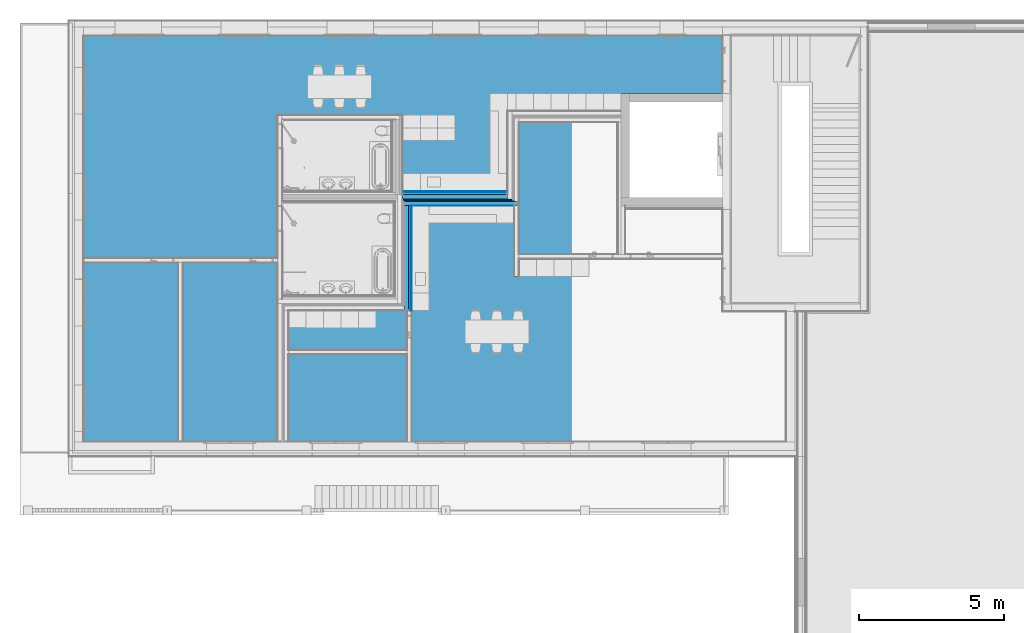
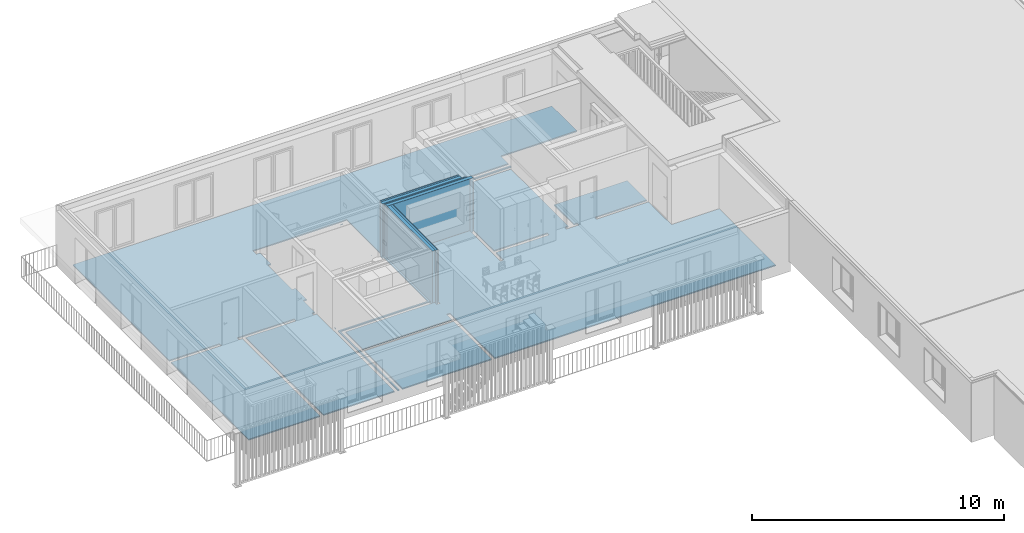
# One storey, part 12 of 34: 15 building element parts, 6 elements without a shape of their own.
"""IFC4 building model written with IfcOpenShell, lengths in millimetres."""

from ifc_helpers import new_model, entity, si_unit, converted_unit, derived_unit, direction, frame, origin_with_axes, place, context, subcontext, project, spatial, polygons, material, type_object, element, aggregate, save


model = new_model("IFC4")

# Units and contexts
model_context = context("Model", 3, precision=0.01, world=origin_with_axes(), true_north=direction((0.0, 1.0)))
body_context = subcontext(model_context, "Body", "Model", "MODEL_VIEW")
ifc_project = project(units=[si_unit("LENGTHUNIT", "METRE", prefix="MILLI"), si_unit("AREAUNIT", "SQUARE_METRE"), si_unit("VOLUMEUNIT", "CUBIC_METRE"), converted_unit("PLANEANGLEUNIT", "DEGREE", entity("IfcPlaneAngleMeasure", 0.0174532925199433), si_unit("PLANEANGLEUNIT", "RADIAN"), dimensions=[0, 0, 0, 0, 0, 0, 0]), converted_unit("TIMEUNIT", "Year", entity("IfcTimeMeasure", 31557600.0), si_unit("TIMEUNIT", "SECOND"), dimensions=[0, 0, 1, 0, 0, 0, 0]), si_unit("MASSUNIT", "GRAM", prefix="KILO"), si_unit("THERMODYNAMICTEMPERATUREUNIT", "DEGREE_CELSIUS"), si_unit("LUMINOUSINTENSITYUNIT", "LUMEN"), si_unit("ENERGYUNIT", "JOULE", prefix="MEGA"), derived_unit("THERMALCONDUCTANCEUNIT", [(si_unit("POWERUNIT", "WATT"), 1), (si_unit("LENGTHUNIT", "METRE"), -1), (si_unit("THERMODYNAMICTEMPERATUREUNIT", "KELVIN"), -1)]), derived_unit("SPECIFICHEATCAPACITYUNIT", [(si_unit("ENERGYUNIT", "JOULE"), 1), (si_unit("MASSUNIT", "GRAM", prefix="KILO"), -1), (si_unit("THERMODYNAMICTEMPERATUREUNIT", "KELVIN"), -1)]), derived_unit("MASSDENSITYUNIT", [(si_unit("MASSUNIT", "GRAM", prefix="KILO"), 1), (si_unit("VOLUMEUNIT", "CUBIC_METRE"), -1)])], contexts=[model_context])

# Site, building, storey
site_placement = place(None, origin_with_axes())
site = spatial("IfcSite", under=ifc_project, at=site_placement, Name="Gelände", CompositionType="ELEMENT")
building_placement = place(site_placement, origin_with_axes())
building = spatial("IfcBuilding", under=site, at=building_placement, Name="Gebäude", CompositionType="ELEMENT")
storey_placement = place(building_placement, frame((0.0, 0.0, 2900.0), z_axis=(0.0, 0.0, 1.0), x_axis=(1.0, 0.0, 0.0)))
storey = spatial("IfcBuildingStorey", under=building, at=storey_placement, Name="1.OG", CompositionType="ELEMENT", Elevation=2900.0)

# Wall, building element parts
wall_type_1 = type_object("IfcWallType", Name="Trennwand Typ 02 - kein Putz 190", PredefinedType="NOTDEFINED")
wall_1_placement = place(storey_placement, frame((8038.997444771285, 31962.59728131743, 0.0), z_axis=(0.0, 0.0, 1.0), x_axis=(-1.0, 0.0, 0.0)))
wall_1 = element("IfcWall", 1, at=wall_1_placement, inside=storey, type_object=wall_type_1, Name="Wand-014", PredefinedType="NOTDEFINED")
ifc_material_1 = material(Name="Dämmung Innen")
building_element_part_1_placement = place(wall_1_placement, origin_with_axes())
building_element_part_1 = element("IfcBuildingElementPart", 2, at=building_element_part_1_placement, material=ifc_material_1, Name="Dämmung Innen", PredefinedType="NOTDEFINED", context=body_context, shape_type="Tessellation", body=[
    polygons([(-150.0000000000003, 190.0000000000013, 149.9999999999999), (-150.0000000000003, 149.9999999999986, 149.9999999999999), (-150.0000000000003, 149.9999999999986, 2649.999948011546), (-150.0000000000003, 190.0000000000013, 2649.999948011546), (3603.001626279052, 149.9999999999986, 149.9999999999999), (3603.001626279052, 190.0000000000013, 149.9999999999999), (3603.001626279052, 149.9999999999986, 2649.999948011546), (3603.001626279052, 190.0000000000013, 2649.999948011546)], [[[1, 2, 3, 4]], [[5, 2, 1, 6]], [[2, 5, 7, 3]], [[3, 7, 8, 4]], [[6, 1, 4, 8]], [[5, 6, 8, 7]]], closed=True),
])
ifc_material_2 = material(Name="MW, Backstein")
building_element_part_2_placement = place(wall_1_placement, origin_with_axes())
building_element_part_2 = element("IfcBuildingElementPart", 3, at=building_element_part_2_placement, material=ifc_material_2, Name="MW, Backstein", PredefinedType="NOTDEFINED", context=body_context, shape_type="Tessellation", body=[
    polygons([(3643.001626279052, 149.9999999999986, 0.0), (3643.001626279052, 0.0, 0.0), (0.0, 0.0, 0.0), (0.0, 149.9999999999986, 0.0), (3643.001626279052, 149.9999999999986, 2649.999948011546), (3643.001626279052, 0.0, 2649.999948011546), (0.0, 0.0, 2649.999948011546), (0.0, 149.9999999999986, 2649.999948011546)], [[[1, 2, 3, 4]], [[2, 1, 5, 6]], [[2, 6, 7, 3]], [[8, 4, 3, 7]], [[5, 1, 4, 8]], [[6, 5, 8, 7]]], closed=True),
])
aggregate(wall_1, [building_element_part_1, building_element_part_2])

# Covering, building element part
covering_type = type_object("IfcCoveringType", Name="Bodenaufbau Typ 01 150", PredefinedType="NOTDEFINED")
covering_placement = place(storey_placement, frame((-6561.004181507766, 37437.5972813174, 0.0), z_axis=(0.0, 0.0, 1.0), x_axis=(1.0, 0.0, 0.0)))
covering = element("IfcCovering", 4, at=covering_placement, inside=storey, type_object=covering_type, Name="Decke-007", PredefinedType="NOTDEFINED")
ifc_material_3 = material(Name="Unterlagsboden")
building_element_part_3_placement = place(covering_placement, origin_with_axes())
building_element_part_3 = element("IfcBuildingElementPart", 5, at=building_element_part_3_placement, material=ifc_material_3, Name="Unterlagsboden", PredefinedType="NOTDEFINED", context=body_context, shape_type="Tessellation", body=[
    polygons([(10621.77773059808, -5369.999999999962, 134.9999999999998), (10621.77773059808, -5359.999999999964, 134.9999999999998), (10611.77773059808, -5359.999999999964, 134.9999999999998), (10611.77773059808, -5369.999999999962, 134.9999999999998), (10621.77773059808, -5359.999999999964, 79.99999999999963), (10621.77773059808, -5369.999999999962, 79.99999999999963), (10611.77773059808, -5359.999999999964, 79.99999999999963), (10611.77773059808, -5369.999999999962, 79.99999999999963)], [[[1, 2, 3, 4]], [[5, 2, 1, 6]], [[2, 5, 7, 3]], [[3, 7, 8, 4]], [[6, 1, 4, 8]], [[5, 6, 8, 7]]], closed=True),
    polygons([(3419.999999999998, -7812.513021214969, 134.9999999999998), (3419.999999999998, -13980.00054054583, 134.9999999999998), (6683.999999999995, -13980.00054054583, 134.9999999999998), (6683.999999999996, -9223.223895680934, 134.9999999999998), (6683.999999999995, -9073.223895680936, 134.9999999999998), (6683.999999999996, -7812.513021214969, 134.9999999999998), (6533.999999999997, -7812.513021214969, 134.9999999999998), (6533.999999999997, -7662.513021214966, 134.9999999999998), (6683.999999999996, -7662.513021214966, 134.9999999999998), (6683.999999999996, -6734.99999999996, 134.9999999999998), (6843.999999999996, -6734.99999999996, 134.9999999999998), (6843.999999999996, -5844.99999999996, 134.9999999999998), (6683.999999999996, -5844.99999999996, 134.9999999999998), (6683.999999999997, -3898.533577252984, 134.9999999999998), (6843.999999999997, -3898.533577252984, 134.9999999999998), (6843.999999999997, -3008.533577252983, 134.9999999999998), (6683.999999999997, -3008.533577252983, 134.9999999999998), (6683.999999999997, -2743.533577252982, 134.9999999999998), (6833.999999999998, -2743.533577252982, 134.9999999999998), (10876.77773059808, -2743.533577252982, 134.9999999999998), (10876.77773059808, -2733.533577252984, 134.9999999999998), (10981.77773059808, -2733.533577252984, 134.9999999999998), (10981.77773059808, -5369.999999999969, 134.9999999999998), (14590.00162627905, -5369.999999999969, 134.9999999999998), (14590.00162627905, -5474.999999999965, 134.9999999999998), (14600.00162627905, -5474.999999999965, 134.9999999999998), (14600.00162627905, -2599.999999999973, 134.9999999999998), (14750.00162627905, -2599.999999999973, 134.9999999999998), (18490.00162627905, -2599.999999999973, 134.9999999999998), (18490.00162627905, -1989.999999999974, 134.9999999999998), (21980.00162627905, -1989.999999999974, 134.9999999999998), (21980.00162627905, 0.0, 134.9999999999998), (0.0, 0.0, 134.9999999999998), (0.0, -7662.51302121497, 134.9999999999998), (2309.999999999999, -7662.51302121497, 134.9999999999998), (2309.999999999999, -7812.513021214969, 134.9999999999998), (0.0, -7812.513021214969, 134.9999999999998), (0.0, -13980.00054054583, 134.9999999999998), (3269.999999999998, -13980.00054054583, 134.9999999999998), (3269.999999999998, -7812.513021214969, 134.9999999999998), (3110.0, -7812.513021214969, 134.9999999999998), (3110.0, -7662.51302121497, 134.9999999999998), (5733.999999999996, -7662.513021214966, 134.9999999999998), (5733.999999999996, -7812.513021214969, 134.9999999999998), (3419.999999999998, -7812.513021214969, 79.99999999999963), (3419.999999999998, -13980.00054054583, 80.00000000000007), (6683.999999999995, -13980.00054054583, 80.00000000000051), (6683.999999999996, -9223.223895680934, 79.99999999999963), (6683.999999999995, -9073.223895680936, 79.99999999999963), (6683.999999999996, -7812.513021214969, 79.99999999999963), (6533.999999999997, -7812.513021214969, 79.99999999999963), (6533.999999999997, -7662.513021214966, 79.99999999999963), (6683.999999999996, -7662.513021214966, 79.99999999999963), (6683.999999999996, -6734.99999999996, 79.99999999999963), (6843.999999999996, -6734.99999999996, 79.99999999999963), (6843.999999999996, -5844.99999999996, 79.99999999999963), (6683.999999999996, -5844.99999999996, 79.99999999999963), (6683.999999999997, -3898.533577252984, 79.99999999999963), (6843.999999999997, -3898.533577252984, 79.99999999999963), (6843.999999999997, -3008.533577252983, 79.99999999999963), (6683.999999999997, -3008.533577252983, 79.99999999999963), (6683.999999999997, -2743.533577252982, 79.99999999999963), (6833.999999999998, -2743.533577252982, 79.99999999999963), (10876.77773059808, -2743.533577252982, 79.99999999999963), (10876.77773059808, -2733.533577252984, 79.99999999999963), (10981.77773059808, -2733.533577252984, 79.99999999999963), (10981.77773059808, -5369.999999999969, 79.99999999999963), (14590.00162627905, -5369.999999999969, 79.99999999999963), (14590.00162627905, -5474.999999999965, 79.99999999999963), (14600.00162627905, -5474.999999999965, 79.99999999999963), (14600.00162627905, -2599.999999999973, 79.99999999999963), (14750.00162627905, -2599.999999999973, 79.99999999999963), (18490.00162627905, -2599.999999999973, 79.99999999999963), (18490.00162627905, -1989.999999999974, 79.99999999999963), (21980.00162627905, -1989.999999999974, 79.99999999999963), (21980.00162627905, 0.0, 79.99999999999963), (0.0, 0.0, 79.99999999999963), (0.0, -7662.51302121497, 79.99999999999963), (2309.999999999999, -7662.51302121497, 79.99999999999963), (2309.999999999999, -7812.513021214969, 79.99999999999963), (0.0, -7812.513021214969, 79.99999999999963), (0.0, -13980.00054054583, 79.99999999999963), (3269.999999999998, -13980.00054054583, 80.00000000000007), (3269.999999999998, -7812.513021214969, 79.99999999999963), (3110.0, -7812.513021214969, 79.99999999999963), (3110.0, -7662.51302121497, 79.99999999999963), (5733.999999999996, -7662.513021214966, 79.99999999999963), (5733.999999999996, -7812.513021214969, 79.99999999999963)], [[[1, 2, 3, 4, 5, 6, 7, 8, 9, 10, 11, 12, 13, 14, 15, 16, 17, 18, 19, 20, 21, 22, 23, 24, 25, 26, 27, 28, 29, 30, 31, 32, 33, 34, 35, 36, 37, 38, 39, 40, 41, 42, 43, 44]], [[2, 1, 45, 46]], [[2, 46, 47, 3]], [[48, 4, 3, 47]], [[4, 48, 49, 5]], [[5, 49, 50, 6]], [[6, 50, 51, 7]], [[8, 7, 51, 52]], [[53, 9, 8, 52]], [[10, 9, 53, 54]], [[11, 10, 54, 55]], [[11, 55, 56, 12]], [[57, 13, 12, 56]], [[14, 13, 57, 58]], [[15, 14, 58, 59]], [[15, 59, 60, 16]], [[61, 17, 16, 60]], [[18, 17, 61, 62]], [[63, 19, 18, 62]], [[64, 20, 19, 63]], [[21, 20, 64, 65]], [[66, 22, 21, 65]], [[23, 22, 66, 67]], [[23, 67, 68, 24]], [[24, 68, 69, 25]], [[25, 69, 70, 26]], [[26, 70, 71, 27]], [[72, 28, 27, 71]], [[28, 72, 73, 29]], [[29, 73, 74, 30]], [[74, 75, 31, 30]], [[75, 76, 32, 31]], [[76, 77, 33, 32]], [[78, 34, 33, 77]], [[35, 34, 78, 79]], [[36, 35, 79, 80]], [[37, 36, 80, 81]], [[37, 81, 82, 38]], [[83, 39, 38, 82]], [[84, 40, 39, 83]], [[40, 84, 85, 41]], [[42, 41, 85, 86]], [[43, 42, 86, 87]], [[44, 43, 87, 88]], [[45, 1, 44, 88]], [[46, 45, 88, 87, 86, 85, 84, 83, 82, 81, 80, 79, 78, 77, 76, 75, 74, 73, 72, 71, 70, 69, 68, 67, 66, 65, 64, 63, 62, 61, 60, 59, 58, 57, 56, 55, 54, 53, 52, 51, 50, 49, 48, 47]]], closed=True),
    polygons([(10726.77773059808, -2903.533577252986, 134.9999999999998), (10726.77773059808, -2893.533577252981, 134.9999999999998), (10611.77773059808, -2893.533577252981, 134.9999999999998), (10611.77773059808, -2903.533577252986, 134.9999999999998), (10726.77773059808, -2903.533577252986, 79.99999999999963), (10726.77773059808, -2893.533577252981, 79.99999999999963), (10611.77773059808, -2893.533577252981, 79.99999999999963), (10611.77773059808, -2903.533577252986, 79.99999999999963)], [[[1, 2, 3, 4]], [[1, 5, 6, 2]], [[2, 6, 7, 3]], [[8, 4, 3, 7]], [[5, 1, 4, 8]], [[5, 8, 7, 6]]], closed=True),
    polygons([(6843.999999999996, -9073.223895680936, 134.9999999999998), (6843.999999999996, -8958.223895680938, 134.9999999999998), (6833.999999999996, -8958.223895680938, 134.9999999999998), (6833.999999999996, -9073.223895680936, 134.9999999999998), (6843.999999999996, -9073.223895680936, 79.99999999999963), (6843.999999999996, -8958.223895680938, 79.99999999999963), (6833.999999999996, -8958.223895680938, 79.99999999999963), (6833.999999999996, -9073.223895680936, 79.99999999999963)], [[[1, 2, 3, 4]], [[2, 1, 5, 6]], [[2, 6, 7, 3]], [[8, 4, 3, 7]], [[5, 1, 4, 8]], [[5, 8, 7, 6]]], closed=True),
    polygons([(6903.999981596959, -13980.00054054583, 134.9999999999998), (6903.999981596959, -9453.223895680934, 134.9999999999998), (6903.999981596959, -9303.223895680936, 134.9999999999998), (11037.0, -9303.223895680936, 134.9999999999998), (11037.0, -5854.999999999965, 134.9999999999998), (11037.0, -5704.999999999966, 134.9999999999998), (14830.00162627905, -5704.999999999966, 134.9999999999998), (14830.00162627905, -2829.999999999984, 134.9999999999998), (14980.00162627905, -2829.999999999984, 134.9999999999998), (18490.0016262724, -2829.999999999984, 134.9999999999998), (18490.00162627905, -2749.999999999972, 134.9999999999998), (14750.00162627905, -2749.999999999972, 134.9999999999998), (14750.00162627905, -5624.999999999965, 134.9999999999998), (14600.00162627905, -5624.999999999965, 134.9999999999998), (10957.0, -5624.999999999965, 134.9999999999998), (10957.0, -9223.223895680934, 134.9999999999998), (10807.0, -9223.223895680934, 134.9999999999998), (6833.999999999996, -9223.223895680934, 134.9999999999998), (6833.999999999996, -13980.00054054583, 134.9999999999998), (6903.999981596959, -9453.223895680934, 79.99999999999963), (6903.999981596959, -13980.00054054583, 80.00000000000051), (6903.999981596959, -9303.223895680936, 79.99999999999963), (11037.0, -9303.223895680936, 79.99999999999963), (11037.0, -5854.999999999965, 79.99999999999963), (11037.0, -5704.999999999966, 79.99999999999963), (14830.00162627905, -5704.999999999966, 80.00000000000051), (14830.00162627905, -2829.999999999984, 79.99999999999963), (14980.00162627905, -2829.999999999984, 79.99999999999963), (18490.00162627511, -2829.999999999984, 79.99999999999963), (18490.00162627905, -2749.999999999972, 79.99999999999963), (14750.00162627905, -2749.999999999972, 79.99999999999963), (14750.00162627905, -5624.999999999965, 79.99999999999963), (14600.00162627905, -5624.999999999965, 79.99999999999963), (10957.0, -5624.999999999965, 79.99999999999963), (10957.0, -9223.223895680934, 79.99999999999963), (10807.0, -9223.223895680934, 79.99999999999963), (6833.999999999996, -9223.223895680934, 79.99999999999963), (6833.999999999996, -13980.00054054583, 79.99999999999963)], [[[1, 2, 3, 4, 5, 6, 7, 8, 9, 10, 11, 12, 13, 14, 15, 16, 17, 18, 19]], [[20, 2, 1, 21]], [[2, 20, 22, 3]], [[23, 4, 3, 22]], [[4, 23, 24, 5]], [[5, 24, 25, 6]], [[26, 7, 6, 25]], [[8, 7, 26, 27]], [[28, 9, 8, 27]], [[29, 10, 9, 28]], [[10, 29, 30, 11]], [[31, 12, 11, 30]], [[13, 12, 31, 32]], [[33, 14, 13, 32]], [[15, 14, 33, 34]], [[15, 34, 35, 16]], [[36, 17, 16, 35]], [[37, 18, 17, 36]], [[19, 18, 37, 38]], [[21, 1, 19, 38]], [[20, 21, 38, 37, 36, 35, 34, 33, 32, 31, 30, 29, 28, 27, 26, 25, 24, 23, 22]]], closed=True),
    polygons([(11142.0, -10970.00054054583, 79.99999999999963), (11142.0, -10970.00054054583, 134.9999999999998), (11142.0, -13980.00054054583, 134.9999999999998), (11142.0, -13980.00054054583, 79.99999999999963), (7053.999981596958, -10970.00054054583, 134.9999999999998), (7053.999981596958, -10970.00054054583, 79.99999999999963), (7053.999981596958, -13980.00054054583, 134.9999999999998), (7053.999981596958, -13980.00054054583, 79.99999999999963)], [[[1, 2, 3, 4]], [[5, 2, 1, 6]], [[2, 5, 7, 3]], [[4, 3, 7, 8]], [[6, 1, 4, 8]], [[5, 6, 8, 7]]], closed=True),
    polygons([(7053.999981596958, -10820.00054054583, 134.9999999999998), (11142.0, -10820.00054054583, 134.9999999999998), (11142.0, -10413.22389568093, 134.9999999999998), (11292.0, -10413.22389568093, 134.9999999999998), (11292.0, -13980.00054054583, 134.9999999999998), (24181.00162627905, -13980.00054054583, 134.9999999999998), (24181.00162627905, -9489.999999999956, 134.9999999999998), (21990.00162627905, -9489.999999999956, 134.9999999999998), (21990.00162627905, -7680.00000076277, 134.9999999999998), (19600.00162627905, -7680.000000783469, 134.9999999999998), (19600.00162627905, -7529.999999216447, 134.9999999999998), (21990.00162627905, -7529.999998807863, 134.9999999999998), (21990.00162627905, -5969.99999999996, 134.9999999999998), (18640.00162627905, -5969.99999999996, 134.9999999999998), (18640.00162627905, -7529.999999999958, 134.9999999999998), (18800.00162627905, -7529.99999933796, 134.9999999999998), (18800.00162627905, -7680.000000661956, 134.9999999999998), (18225.00162627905, -7680.000000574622, 134.9999999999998), (18225.00162627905, -7529.999999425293, 134.9999999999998), (18385.00162627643, -7529.999999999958, 134.9999999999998), (18385.00162623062, -2979.999999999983, 134.9999999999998), (14980.00162627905, -2979.999999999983, 134.9999999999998), (14980.00162627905, -5704.999999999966, 134.9999999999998), (14980.00162627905, -5854.999999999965, 134.9999999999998), (14980.00162627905, -7529.999999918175, 134.9999999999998), (17425.00162627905, -7529.999999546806, 134.9999999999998), (17425.00162627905, -7680.000000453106, 134.9999999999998), (14980.00162627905, -7680.000000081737, 134.9999999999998), (14980.00162627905, -8287.999999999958, 134.9999999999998), (14830.00162627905, -8287.999999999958, 134.9999999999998), (14830.00162627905, -5854.999999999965, 134.9999999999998), (11292.0, -5854.999999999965, 134.9999999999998), (11292.0, -9613.223895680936, 134.9999999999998), (11142.0, -9613.223895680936, 134.9999999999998), (11142.0, -9463.223895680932, 134.9999999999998), (11187.0, -9463.223895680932, 134.9999999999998), (11187.0, -9453.223895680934, 134.9999999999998), (11037.0, -9453.223895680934, 134.9999999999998), (7053.999981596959, -9453.223895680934, 134.9999999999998), (11142.0, -10820.00054054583, 79.99999999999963), (7053.999981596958, -10820.00054054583, 79.99999999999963), (11142.0, -10413.22389568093, 79.99999999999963), (11292.0, -10413.22389568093, 79.99999999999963), (11292.0, -13980.00054054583, 79.99999999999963), (24181.00162627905, -13980.00054054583, 79.99999999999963), (24181.00162627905, -9489.999999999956, 79.99999999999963), (21990.00162627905, -9489.999999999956, 79.99999999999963), (21990.00162627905, -7680.00000076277, 79.99999999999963), (19600.00162627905, -7680.000000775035, 79.99999999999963), (19600.00162627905, -7529.99999922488, 79.99999999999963), (21990.00162627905, -7529.999998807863, 79.99999999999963), (21990.00162627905, -5969.99999999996, 79.99999999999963), (18640.00162627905, -5969.99999999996, 79.99999999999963), (18640.00162627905, -7529.999999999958, 79.99999999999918), (18800.00162627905, -7529.999999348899, 79.99999999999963), (18800.00162627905, -7680.000000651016, 79.99999999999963), (18225.00162627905, -7680.000000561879, 79.99999999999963), (18225.00162627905, -7529.999999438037, 79.99999999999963), (18385.0016262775, -7529.999999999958, 79.99999999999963), (18385.00162625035, -2979.999999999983, 79.99999999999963), (14980.00162627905, -2979.999999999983, 79.99999999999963), (14980.00162627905, -5704.999999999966, 79.99999999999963), (14980.00162627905, -5854.999999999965, 79.99999999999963), (14980.00162627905, -7529.99999994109, 79.99999999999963), (17425.00162627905, -7529.999999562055, 79.99999999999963), (17425.00162627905, -7680.000000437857, 79.99999999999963), (14980.00162627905, -7680.000000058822, 79.99999999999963), (14980.00162627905, -8287.999999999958, 79.99999999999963), (14830.00162627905, -8287.999999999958, 79.99999999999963), (14830.00162627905, -5854.999999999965, 79.99999999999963), (11292.0, -5854.999999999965, 80.00000000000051), (11292.0, -9613.223895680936, 79.99999999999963), (11142.0, -9613.223895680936, 79.99999999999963), (11142.0, -9463.223895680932, 79.99999999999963), (11187.0, -9463.223895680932, 79.99999999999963), (11187.0, -9453.223895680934, 79.99999999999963), (11037.0, -9453.223895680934, 79.99999999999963), (7053.999981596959, -9453.223895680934, 79.99999999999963)], [[[1, 2, 3, 4, 5, 6, 7, 8, 9, 10, 11, 12, 13, 14, 15, 16, 17, 18, 19, 20, 21, 22, 23, 24, 25, 26, 27, 28, 29, 30, 31, 32, 33, 34, 35, 36, 37, 38, 39]], [[40, 2, 1, 41]], [[2, 40, 42, 3]], [[4, 3, 42, 43]], [[5, 4, 43, 44]], [[5, 44, 45, 6]], [[45, 46, 7, 6]], [[46, 47, 8, 7]], [[48, 9, 8, 47]], [[10, 9, 48, 49]], [[11, 10, 49, 50]], [[51, 12, 11, 50]], [[52, 13, 12, 51]], [[14, 13, 52, 53]], [[14, 53, 54, 15]], [[15, 54, 55, 16]], [[17, 16, 55, 56]], [[18, 17, 56, 57]], [[19, 18, 57, 58]], [[59, 20, 19, 58]], [[60, 21, 20, 59]], [[22, 21, 60, 61]], [[22, 61, 62, 23]], [[23, 62, 63, 24]], [[24, 63, 64, 25]], [[25, 64, 65, 26]], [[27, 26, 65, 66]], [[67, 28, 27, 66]], [[29, 28, 67, 68]], [[30, 29, 68, 69]], [[70, 31, 30, 69]], [[71, 32, 31, 70]], [[71, 72, 33, 32]], [[34, 33, 72, 73]], [[35, 34, 73, 74]], [[75, 36, 35, 74]], [[36, 75, 76, 37]], [[77, 38, 37, 76]], [[78, 39, 38, 77]], [[41, 1, 39, 78]], [[40, 41, 78, 77, 76, 75, 74, 73, 72, 71, 70, 69, 68, 67, 66, 65, 64, 63, 62, 61, 60, 59, 58, 57, 56, 55, 54, 53, 52, 51, 50, 49, 48, 47, 46, 45, 44, 43, 42]]], closed=True),
])
aggregate(covering, [building_element_part_3])

# Wall, building element parts
wall_type_2 = type_object("IfcWallType", Name="Vorsatzschale 01 115", PredefinedType="NOTDEFINED")
wall_2_placement = place(storey_placement, frame((4740.995818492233, 31582.59728131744, 0.0), z_axis=(0.0, 0.0, 1.0), x_axis=(0.0, -1.0, 0.0)))
wall_2 = element("IfcWall", 6, at=wall_2_placement, inside=storey, type_object=wall_type_2, Name="Wand-014", PredefinedType="NOTDEFINED")
ifc_material_4 = material(Name="Kalkzementputz Aussen")
building_element_part_4_placement = place(wall_2_placement, origin_with_axes())
building_element_part_4 = element("IfcBuildingElementPart", 7, at=building_element_part_4_placement, material=ifc_material_4, Name="Kalkzementputz Aussen", PredefinedType="NOTDEFINED", context=body_context, shape_type="Tessellation", body=[
    polygons([(3608.223895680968, 0.0, 149.9999999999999), (10.00000000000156, 0.0, 149.9999999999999), (10.00000000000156, 0.0, 2649.999948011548), (3608.223895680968, 0.0, 2649.999948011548), (10.00000000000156, -9.999999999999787, 149.9999999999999), (3608.223895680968, -9.999999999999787, 149.9999999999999), (10.00000000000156, -9.999999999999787, 2649.999948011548), (3608.223895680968, -9.999999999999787, 2649.999948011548)], [[[1, 2, 3, 4]], [[5, 2, 1, 6]], [[2, 5, 7, 3]], [[7, 8, 4, 3]], [[6, 1, 4, 8]], [[5, 6, 8, 7]]], closed=True),
])
ifc_material_5 = material(Name="Gipskartonplatte GKP")
building_element_part_5_placement = place(wall_2_placement, origin_with_axes())
building_element_part_5 = element("IfcBuildingElementPart", 8, at=building_element_part_5_placement, material=ifc_material_5, Name="Gipskartonplatte GKP", PredefinedType="NOTDEFINED", context=body_context, shape_type="Tessellation", body=[
    polygons([(3608.223895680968, -22.49999999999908, 2649.999948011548), (3608.223895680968, -9.999999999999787, 2649.999948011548), (0.0, -9.999999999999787, 2649.999948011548), (0.0, -22.49999999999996, 2649.999948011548), (3608.223895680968, -22.49999999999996, 0.0), (3608.223895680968, -9.999999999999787, 0.0), (0.0, -9.999999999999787, 0.0), (0.0, -22.49999999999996, 0.0)], [[[1, 2, 3, 4]], [[1, 5, 6, 2]], [[2, 6, 7, 3]], [[4, 3, 7, 8]], [[5, 1, 4, 8]], [[6, 5, 8, 7]]], closed=True),
])
building_element_part_6_placement = place(wall_2_placement, origin_with_axes())
building_element_part_6 = element("IfcBuildingElementPart", 9, at=building_element_part_6_placement, material=ifc_material_5, Name="Gipskartonplatte GKP", PredefinedType="NOTDEFINED", context=body_context, shape_type="Tessellation", body=[
    polygons([(3608.223895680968, -34.99999999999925, 2649.999948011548), (3608.223895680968, -22.49999999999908, 2649.999948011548), (0.0, -22.49999999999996, 2649.999948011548), (0.0, -35.00000000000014, 2649.999948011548), (3608.223895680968, -34.99999999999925, 0.0), (3608.223895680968, -22.49999999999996, 0.0), (0.0, -22.49999999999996, 0.0), (0.0, -35.00000000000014, 0.0)], [[[1, 2, 3, 4]], [[1, 5, 6, 2]], [[2, 6, 7, 3]], [[4, 3, 7, 8]], [[5, 1, 4, 8]], [[6, 5, 8, 7]]], closed=True),
])

# Wall, building element part
wall_type_3 = type_object("IfcWallType", Name="Trennwand Typ 03 - verputzt 200", PredefinedType="NOTDEFINED")
wall_3_placement = place(storey_placement, frame((4625.995818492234, 31582.59728131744, 0.0), z_axis=(0.0, 0.0, 1.0), x_axis=(1.0, 0.0, 0.0)))
wall_3 = element("IfcWall", 10, at=wall_3_placement, inside=storey, type_object=wall_type_3, Name="Wand-015", PredefinedType="NOTDEFINED")
building_element_part_7_placement = place(wall_3_placement, origin_with_axes())
building_element_part_7 = element("IfcBuildingElementPart", 11, at=building_element_part_7_placement, material=ifc_material_1, Name="Dämmung Innen", PredefinedType="NOTDEFINED", context=body_context, shape_type="Tessellation", body=[
    polygons([(3643.001626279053, 149.9999999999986, 149.9999999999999), (3643.001626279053, 190.0000000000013, 149.9999999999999), (3643.001626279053, 190.0000000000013, 2649.999948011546), (3643.001626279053, 150.0000000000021, 2649.999948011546), (-190.0000000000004, 190.0000000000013, 149.9999999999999), (-190.0000000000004, 149.9999999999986, 149.9999999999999), (-190.0000000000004, 190.0000000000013, 2649.999948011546), (-190.0000000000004, 149.9999999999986, 2649.999948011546)], [[[1, 2, 3, 4]], [[5, 2, 1, 6]], [[2, 5, 7, 3]], [[4, 3, 7, 8]], [[6, 1, 4, 8]], [[5, 6, 8, 7]]], closed=True),
])

# Building element part
ifc_material_6 = material(Name="Ständer Konstruktion gedämmt")
building_element_part_8_placement = place(wall_2_placement, origin_with_axes())
building_element_part_8 = element("IfcBuildingElementPart", 12, at=building_element_part_8_placement, material=ifc_material_6, Name="Ständer Konstruktion gedämmt", PredefinedType="NOTDEFINED", context=body_context, shape_type="Tessellation", body=[
    polygons([(3608.223895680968, -114.9999999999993, 2649.999948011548), (3608.223895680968, -34.99999999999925, 2649.999948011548), (0.0, -35.00000000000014, 2649.999948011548), (0.0, -115.0000000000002, 2649.999948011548), (3608.223895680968, -114.9999999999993, 0.0), (3608.223895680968, -34.99999999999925, 0.0), (0.0, -35.00000000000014, 0.0), (0.0, -115.0000000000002, 0.0)], [[[1, 2, 3, 4]], [[1, 5, 6, 2]], [[2, 6, 7, 3]], [[4, 3, 7, 8]], [[5, 1, 4, 8]], [[6, 5, 8, 7]]], closed=True),
])

aggregate(wall_2, [building_element_part_4, building_element_part_5, building_element_part_6, building_element_part_8])

building_element_part_9_placement = place(wall_3_placement, origin_with_axes())
building_element_part_9 = element("IfcBuildingElementPart", 13, at=building_element_part_9_placement, material=ifc_material_2, Name="MW, Backstein", PredefinedType="NOTDEFINED", context=body_context, shape_type="Tessellation", body=[
    polygons([(3793.001626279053, 149.9999999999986, 0.0), (3793.001626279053, 0.0, 0.0), (-150.0000000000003, 0.0, 0.0), (-150.0000000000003, 149.9999999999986, 0.0), (3793.001626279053, 150.0000000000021, 2649.999948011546), (3793.001626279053, 0.0, 2649.999948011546), (-150.0000000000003, 0.0, 2649.999948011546), (-150.0000000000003, 149.9999999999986, 2649.999948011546)], [[[1, 2, 3, 4]], [[2, 1, 5, 6]], [[2, 6, 7, 3]], [[8, 4, 3, 7]], [[5, 1, 4, 8]], [[6, 5, 8, 7]]], closed=True),
])

building_element_part_10_placement = place(wall_3_placement, origin_with_axes())
building_element_part_10 = element("IfcBuildingElementPart", 14, at=building_element_part_10_placement, material=ifc_material_4, Name="Kalkzementputz Aussen", PredefinedType="NOTDEFINED", context=body_context, shape_type="Tessellation", body=[
    polygons([(3643.001626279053, -9.99999999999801, 149.9999999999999), (3643.001626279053, 0.0, 149.9999999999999), (3643.001626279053, 0.0, 2649.999948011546), (3643.001626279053, -9.99999999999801, 2649.999948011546), (104.9999999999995, 0.0, 149.9999999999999), (104.9999999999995, -10.00000000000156, 149.9999999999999), (104.9999999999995, 0.0, 2649.999948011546), (104.9999999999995, -10.00000000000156, 2649.999948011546)], [[[1, 2, 3, 4]], [[5, 2, 1, 6]], [[2, 5, 7, 3]], [[8, 4, 3, 7]], [[6, 1, 4, 8]], [[5, 6, 8, 7]]], closed=True),
    polygons([(3803.001626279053, -9.99999999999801, 149.9999999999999), (3803.001626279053, 0.0, 149.9999999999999), (3803.001626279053, 0.0, 2649.999948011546), (3803.001626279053, -9.99999999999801, 2649.999948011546), (3793.001626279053, 0.0, 149.9999999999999), (3793.001626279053, -9.99999999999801, 149.9999999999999), (3793.001626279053, 0.0, 2649.999948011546), (3793.001626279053, -9.99999999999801, 2649.999948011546)], [[[1, 2, 3, 4]], [[5, 2, 1, 6]], [[2, 5, 7, 3]], [[3, 7, 8, 4]], [[6, 1, 4, 8]], [[5, 6, 8, 7]]], closed=True),
])

aggregate(wall_3, [building_element_part_7, building_element_part_9, building_element_part_10])

# Wall, building element part
wall_4_placement = place(storey_placement, frame((4625.995818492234, 31582.59728131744, 0.0), z_axis=(0.0, 0.0, 1.0), x_axis=(0.0, -1.0, 0.0)))
wall_4 = element("IfcWall", 15, at=wall_4_placement, inside=storey, type_object=wall_type_1, Name="Wand-015", PredefinedType="NOTDEFINED")
building_element_part_11_placement = place(wall_4_placement, origin_with_axes())
building_element_part_11 = element("IfcBuildingElementPart", 16, at=building_element_part_11_placement, material=ifc_material_2, Name="MW, Backstein", PredefinedType="NOTDEFINED", context=body_context, shape_type="Tessellation", body=[
    polygons([(3598.22389568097, 0.0, 2649.999948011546), (0.0, 0.0, 2649.999948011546), (0.0, -149.9999999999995, 2649.999948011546), (3598.22389568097, -149.9999999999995, 2649.999948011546), (3598.22389568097, 0.0, 0.0), (0.0, 0.0, 0.0), (0.0, -150.0000000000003, 0.0), (3598.22389568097, -149.9999999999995, 0.0)], [[[1, 2, 3, 4]], [[5, 6, 2, 1]], [[3, 2, 6, 7]], [[4, 3, 7, 8]], [[4, 8, 5, 1]], [[8, 7, 6, 5]]], closed=True),
])
aggregate(wall_4, [building_element_part_11])

# Wall, building element parts
wall_5_placement = place(storey_placement, frame((8028.997444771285, 31962.59728131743, 0.0), z_axis=(0.0, 0.0, 1.0), x_axis=(-1.0, 0.0, 0.0)))
wall_5 = element("IfcWall", 17, at=wall_5_placement, inside=storey, type_object=wall_type_2, Name="Wand-014", PredefinedType="NOTDEFINED")
building_element_part_12_placement = place(wall_5_placement, origin_with_axes())
building_element_part_12 = element("IfcBuildingElementPart", 18, at=building_element_part_12_placement, material=ifc_material_6, Name="Ständer Konstruktion gedämmt", PredefinedType="NOTDEFINED", context=body_context, shape_type="Tessellation", body=[
    polygons([(3608.223895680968, -79.9999999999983, 0.0), (3608.223895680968, -79.9999999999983, 2649.999948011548), (0.0, -79.9999999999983, 2649.999948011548), (0.0, -79.9999999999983, 0.0), (3608.223895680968, 0.0, 2649.999948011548), (3608.223895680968, 0.0, 0.0), (0.0, 0.0, 2649.999948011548), (0.0, 0.0, 0.0)], [[[1, 2, 3, 4]], [[5, 2, 1, 6]], [[2, 5, 7, 3]], [[3, 7, 8, 4]], [[6, 1, 4, 8]], [[5, 6, 8, 7]]], closed=True),
])
building_element_part_13_placement = place(wall_5_placement, origin_with_axes())
building_element_part_13 = element("IfcBuildingElementPart", 19, at=building_element_part_13_placement, material=ifc_material_5, Name="Gipskartonplatte GKP", PredefinedType="NOTDEFINED", context=body_context, shape_type="Tessellation", body=[
    polygons([(3608.223895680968, -92.50000000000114, 0.0), (3608.223895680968, -92.50000000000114, 2649.999948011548), (0.0, -92.50000000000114, 2649.999948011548), (0.0, -92.50000000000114, 0.0), (3608.223895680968, -79.9999999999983, 2649.999948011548), (3608.223895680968, -79.9999999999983, 0.0), (0.0, -79.9999999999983, 2649.999948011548), (0.0, -79.9999999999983, 0.0)], [[[1, 2, 3, 4]], [[5, 2, 1, 6]], [[2, 5, 7, 3]], [[3, 7, 8, 4]], [[6, 1, 4, 8]], [[5, 6, 8, 7]]], closed=True),
])
building_element_part_14_placement = place(wall_5_placement, origin_with_axes())
building_element_part_14 = element("IfcBuildingElementPart", 20, at=building_element_part_14_placement, material=ifc_material_5, Name="Gipskartonplatte GKP", PredefinedType="NOTDEFINED", context=body_context, shape_type="Tessellation", body=[
    polygons([(3608.223895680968, -104.9999999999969, 0.0), (3608.223895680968, -104.9999999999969, 2649.999948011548), (0.0, -104.9999999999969, 2649.999948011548), (0.0, -104.9999999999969, 0.0), (3608.223895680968, -92.50000000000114, 2649.999948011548), (3608.223895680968, -92.50000000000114, 0.0), (0.0, -92.50000000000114, 2649.999948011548), (0.0, -92.50000000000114, 0.0)], [[[1, 2, 3, 4]], [[5, 2, 1, 6]], [[2, 5, 7, 3]], [[3, 7, 8, 4]], [[6, 1, 4, 8]], [[5, 6, 8, 7]]], closed=True),
])
building_element_part_15_placement = place(wall_5_placement, origin_with_axes())
building_element_part_15 = element("IfcBuildingElementPart", 21, at=building_element_part_15_placement, material=ifc_material_4, Name="Kalkzementputz Aussen", PredefinedType="NOTDEFINED", context=body_context, shape_type="Tessellation", body=[
    polygons([(0.0, -104.9999999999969, 149.9999999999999), (0.0, -115.000000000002, 149.9999999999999), (0.0, -115.000000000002, 2649.999948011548), (0.0, -104.9999999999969, 2649.999948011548), (3598.223895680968, -115.000000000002, 149.9999999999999), (3598.223895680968, -104.9999999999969, 149.9999999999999), (3598.223895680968, -115.000000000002, 2649.999948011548), (3598.223895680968, -104.9999999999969, 2649.999948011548)], [[[1, 2, 3, 4]], [[5, 2, 1, 6]], [[2, 5, 7, 3]], [[3, 7, 8, 4]], [[6, 1, 4, 8]], [[5, 6, 8, 7]]], closed=True),
])
aggregate(wall_5, [building_element_part_12, building_element_part_13, building_element_part_14, building_element_part_15])

save(model, "model.ifc")
